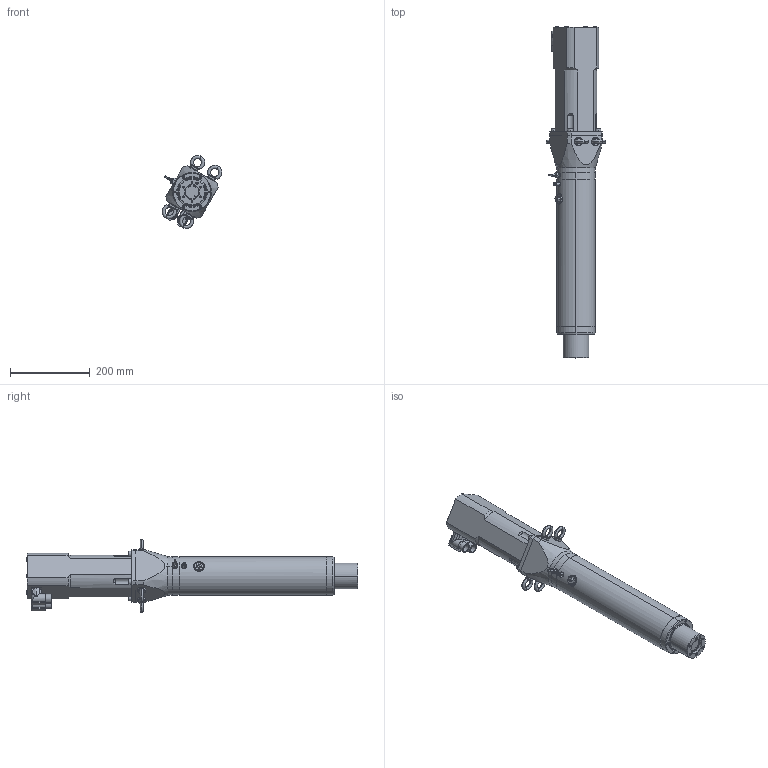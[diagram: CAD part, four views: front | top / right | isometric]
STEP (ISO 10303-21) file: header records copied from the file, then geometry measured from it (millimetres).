
FILE_DESCRIPTION (( 'STEP AP203' ), '1' );
FILE_NAME ('LN5I0100_020_030N.STEP', '2019-04-17T07:25:54', ( '' ), ( '' ), 'SwSTEP 2.0', 'SolidWorks 2016', '' );
FILE_SCHEMA (( 'CONFIG_CONTROL_DESIGN' ));
Length unit declared in the file: millimetre
Products named in the file (1): LN5I0100_020_030N
Bounding box: 150.22 x 835 x 183.96 mm (x, y, z)
Volume: 5344272.5 mm3; surface area: 627074.9 mm2
Topology: 21 solids, 21 shells, 844 faces, 2023 edges, 1214 vertices
Faces by surface type: cylinder 346, plane 249, cone 145, torus 52, bspline 50, sphere 2
Entity records: 28714 total; most frequent: CARTESIAN_POINT 9268, DIRECTION 4221, ORIENTED_EDGE 3866, EDGE_CURVE 1933, AXIS2_PLACEMENT_3D 1699, VERTEX_POINT 1214, EDGE_LOOP 999, CIRCLE 904
